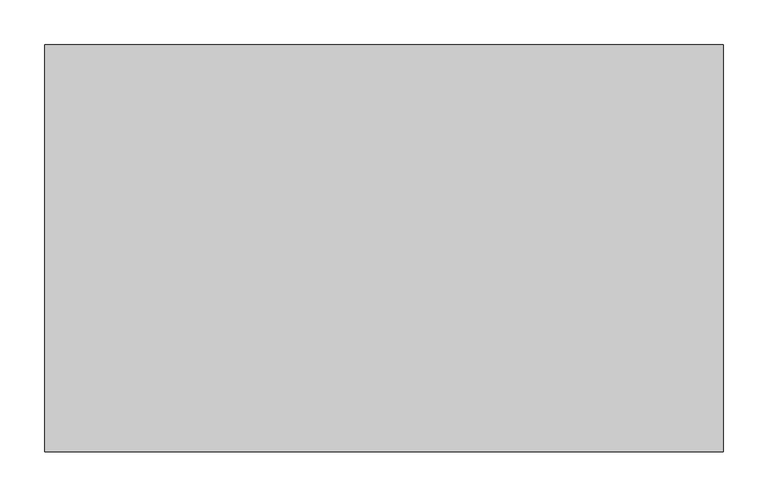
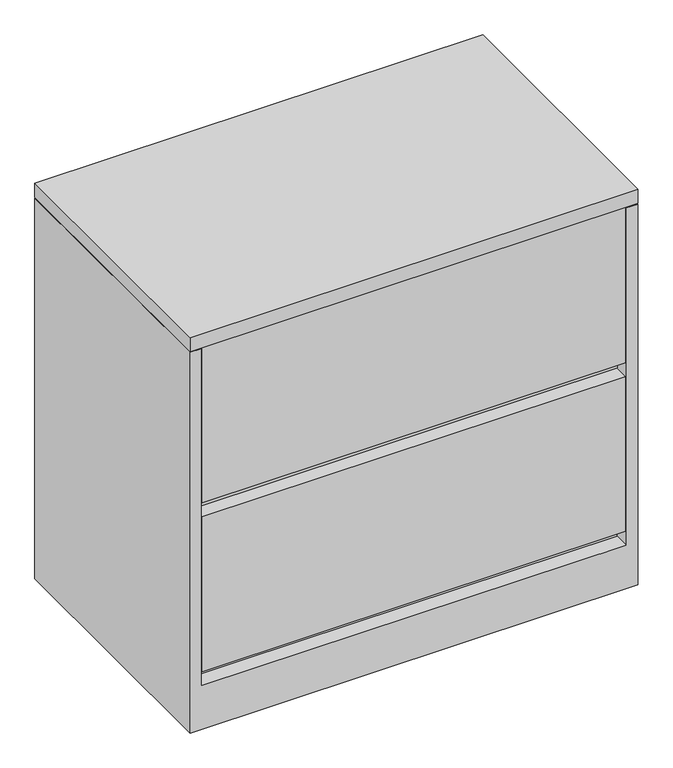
"""IFC4 building model written with IfcOpenShell, lengths in millimetres: furniture geometry, Steelcase - 900 Series - Storage - Lateral File With Roll Out Shelf - Flush Steel : 28H x 30W."""

import ifcopenshell
import ifcopenshell.guid

model = None  # the IFC model being written
_history = None  # IfcOwnerHistory: only IFC2X3 demands one
_inside = {}  # id of a spatial element -> (the spatial element, [elements in it])
_under = {}  # id of a project, library or spatial element -> (it, [spatial elements below it])
_declared = {}  # id of a project -> (the project, [libraries it declares])
_typed = {}  # id of a type object -> (the type object, [elements of that type])
_made_of = {}  # id of a material, layer set ... -> (it, [elements and type objects made of it])


def new_model(schema):
    """Start an empty IFC model of exactly this schema.

    Asked for "IFC4X3", IfcOpenShell would pick the latest addendum, in which some entities
    have other attributes; the version numbers below select the first issue.
    IFC2X3 requires an IfcOwnerHistory on every rooted entity: one is made here for all.
    """
    global model, _history
    if schema == "IFC4X3":
        model = ifcopenshell.file(schema_version=(4, 3, 0, 0))
    else:
        model = ifcopenshell.file(schema=schema)
    _inside.clear()
    _under.clear()
    _declared.clear()
    _typed.clear()
    _made_of.clear()
    _history = None
    if model.schema == "IFC2X3":
        org = make("IfcOrganization", Name="unknown")
        user = make(
            "IfcPersonAndOrganization",
            ThePerson=make("IfcPerson", FamilyName="unknown"),
            TheOrganization=org,
        )
        app = make(
            "IfcApplication",
            ApplicationDeveloper=org,
            Version="unknown",
            ApplicationFullName="unknown",
            ApplicationIdentifier="unknown",
        )
        _history = make(
            "IfcOwnerHistory",
            OwningUser=user,
            OwningApplication=app,
            ChangeAction="ADDED",
            CreationDate=0,
        )
    return model


def make(cls, **values):
    """One entity of the class cls with the attributes given. An attribute that is None is left unset."""
    return model.create_entity(
        cls, **{name: value for name, value in values.items() if value is not None}
    )


def rooted(cls, **values):
    """An entity with a GlobalId (a new one), such as an element, a storey or a relation."""
    return make(cls, GlobalId=ifcopenshell.guid.new(), OwnerHistory=_history, **values)


def si_unit(unit_type, name, prefix=None):
    """IfcSIUnit, for example si_unit("LENGTHUNIT", "METRE", prefix="MILLI")."""
    return make("IfcSIUnit", UnitType=unit_type, Prefix=prefix, Name=name)


def assignment(units):
    """IfcUnitAssignment: the units of a project."""
    return None if units is None else make("IfcUnitAssignment", Units=units)


def point(xyz):
    """IfcCartesianPoint."""
    return None if xyz is None else make("IfcCartesianPoint", Coordinates=xyz)


def direction(xyz):
    """IfcDirection."""
    return None if xyz is None else make("IfcDirection", DirectionRatios=xyz)


def frame(location, z_axis=None, x_axis=None):
    """IfcAxis2Placement3D, a coordinate frame: its origin and axes. An axis left out is left unset."""
    return make(
        "IfcAxis2Placement3D",
        Location=point(location),
        Axis=direction(z_axis),
        RefDirection=direction(x_axis),
    )


def origin():
    """The frame at (0, 0, 0) with its axes left unset."""
    return frame((0.0, 0.0, 0.0))


def place(relative_to, where):
    """IfcLocalPlacement: puts the frame where relative to a parent placement (None: the world)."""
    return make(
        "IfcLocalPlacement", PlacementRelTo=relative_to, RelativePlacement=where
    )


def context(
    kind, dimensions, precision=None, world=None, true_north=None, identifier=None
):
    """IfcGeometricRepresentationContext, for example the 3D "Model" context."""
    return make(
        "IfcGeometricRepresentationContext",
        ContextIdentifier=identifier,
        ContextType=kind,
        CoordinateSpaceDimension=dimensions,
        Precision=precision,
        WorldCoordinateSystem=world,
        TrueNorth=true_north,
    )


def project(units=None, contexts=None):
    """IfcProject with its units and contexts."""
    return rooted(
        "IfcProject",
        Name="project",
        RepresentationContexts=contexts,
        UnitsInContext=assignment(units),
    )


def spatial(cls, under=None, at=None, **own):
    """A site, building, storey or space (cls), placed at a placement, below another one or the project."""
    s = rooted(cls, ObjectPlacement=at, **own)
    if under is not None:
        _under.setdefault(under.id(), (under, []))[1].append(s)
    return s


def polyline(points):
    """IfcPolyline through the points."""
    return make("IfcPolyline", Points=[point(p) for p in points])


def outline(outer, holes=None, kind="AREA"):
    """IfcArbitraryClosedProfileDef: a profile drawn as a closed curve; with holes, ...WithVoids."""
    if holes is None:
        return make("IfcArbitraryClosedProfileDef", ProfileType=kind, OuterCurve=outer)
    return make(
        "IfcArbitraryProfileDefWithVoids",
        ProfileType=kind,
        OuterCurve=outer,
        InnerCurves=holes,
    )


def extrude(swept, where, along, depth):
    """IfcExtrudedAreaSolid: the profile swept, set in the frame where, extruded along a direction by depth."""
    return make(
        "IfcExtrudedAreaSolid",
        SweptArea=swept,
        Position=where,
        ExtrudedDirection=direction(along),
        Depth=depth,
    )


def faces_of(points, faces, orient=None, outer=None):
    """IfcFace entities. A face is a list of loops; a loop is a list of indices into points, from 0.

    orient and outer hold one flag for each loop. By default every Orientation is true, the
    first loop of a face is its IfcFaceOuterBound and the others are IfcFaceBound.
    """
    made = []
    for i, loops in enumerate(faces):
        bounds = []
        for j, loop in enumerate(loops):
            is_outer = j == 0 if outer is None else outer[i][j]
            bounds.append(
                make(
                    "IfcFaceOuterBound" if is_outer else "IfcFaceBound",
                    Bound=make("IfcPolyLoop", Polygon=[points[k] for k in loop]),
                    Orientation=True if orient is None else orient[i][j],
                )
            )
        made.append(make("IfcFace", Bounds=bounds))
    return made


def faceted_brep(points, faces, orient=None, outer=None, voids=None):
    """IfcFacetedBrep: a solid bounded by flat faces; with voids (closed shells), ...WithVoids."""
    shared = [point(p) for p in points]
    hull = make("IfcClosedShell", CfsFaces=faces_of(shared, faces, orient, outer))
    if voids is None:
        return make("IfcFacetedBrep", Outer=hull)
    return make(
        "IfcFacetedBrepWithVoids",
        Outer=hull,
        Voids=[
            make(cls, CfsFaces=faces_of(shared, fs, o, b)) for cls, fs, o, b in voids
        ],
    )


def shape(context_of_items, identifier, shape_type, items):
    """IfcShapeRepresentation: the items that make up one representation, for example the "Body"."""
    return make(
        "IfcShapeRepresentation",
        ContextOfItems=context_of_items,
        RepresentationIdentifier=identifier,
        RepresentationType=shape_type,
        Items=items,
    )


def source(mapping_origin, context_of_items, identifier, shape_type, items):
    """IfcRepresentationMap: a shape defined once, which mapped items show again and again."""
    return make(
        "IfcRepresentationMap",
        MappingOrigin=mapping_origin,
        MappedRepresentation=shape(context_of_items, identifier, shape_type, items),
    )


def transform(
    local_origin,
    x_axis=None,
    y_axis=None,
    z_axis=None,
    scale=None,
    scale2=None,
    scale3=None,
    uniform=True,
):
    """IfcCartesianTransformationOperator3D, or its non-uniform kind. x_axis, y_axis, z_axis: its Axis1, 2, 3."""
    if uniform:
        return make(
            "IfcCartesianTransformationOperator3D",
            Axis1=direction(x_axis),
            Axis2=direction(y_axis),
            LocalOrigin=point(local_origin),
            Scale=scale,
            Axis3=direction(z_axis),
        )
    return make(
        "IfcCartesianTransformationOperator3DnonUniform",
        Axis1=direction(x_axis),
        Axis2=direction(y_axis),
        LocalOrigin=point(local_origin),
        Scale=scale,
        Axis3=direction(z_axis),
        Scale2=scale2,
        Scale3=scale3,
    )


def mapped(mapping_source, mapping_target):
    """IfcMappedItem: shows the shape of a source again, moved by a transform."""
    return make(
        "IfcMappedItem", MappingSource=mapping_source, MappingTarget=mapping_target
    )


def made_of(thing, what):
    """Note that an element or type object is made of a material, layer set ...; save() writes the relation."""
    if what is not None:
        _made_of.setdefault(what.id(), (what, []))[1].append(thing)
    return thing


def element(
    cls,
    number,
    at=None,
    inside=None,
    cuts=None,
    type_object=None,
    material=None,
    context=None,
    identifier="Body",
    shape_type=None,
    held_by="IfcProductDefinitionShape",
    body=None,
    shapes=None,
    **own,
):
    """One element of the class cls, such as IfcWall. Its Tag is "e" and its number.

    at: its placement. inside: the storey or other place that contains it. cuts: it is an
    opening in that element (IfcRelVoidsElement). A single representation is given by context,
    identifier, shape_type and body (its items); several are given by shapes. held_by: the class
    of the entity that holds the representations. save() writes the other relations.
    """
    e = rooted(cls, Tag="e%d" % number, ObjectPlacement=at, **own)
    if body is not None:
        shapes = [shape(context, identifier, shape_type, body)]
    if shapes is not None:
        e.Representation = make(held_by, Representations=shapes)
    if inside is not None:
        _inside.setdefault(inside.id(), (inside, []))[1].append(e)
    if cuts is not None:
        rooted(
            "IfcRelVoidsElement", RelatingBuildingElement=cuts, RelatedOpeningElement=e
        )
    if type_object is not None:
        _typed.setdefault(type_object.id(), (type_object, []))[1].append(e)
    return made_of(e, material)


def aggregate(whole, parts):
    """IfcRelAggregates: a whole, such as a stair, and the parts it consists of."""
    return rooted("IfcRelAggregates", RelatingObject=whole, RelatedObjects=parts)


def save(model, path):
    """Write the relations noted so far, then the file.

    IfcRelAggregates (storeys below a building ...), IfcRelContainedInSpatialStructure (elements
    in a storey), IfcRelDefinesByType, IfcRelAssociatesMaterial and IfcRelDeclares: one each for
    every whole, place, type object, material and project.
    """
    for whole, parts in _under.values():
        aggregate(whole, parts)
    for where, things in _inside.values():
        rooted(
            "IfcRelContainedInSpatialStructure",
            RelatedElements=things,
            RelatingStructure=where,
        )
    for kind, things in _typed.values():
        rooted("IfcRelDefinesByType", RelatedObjects=things, RelatingType=kind)
    for what, things in _made_of.values():
        rooted("IfcRelAssociatesMaterial", RelatedObjects=things, RelatingMaterial=what)
    for by, libraries in _declared.values():
        rooted("IfcRelDeclares", RelatingContext=by, RelatedDefinitions=libraries)
    model.write(path)


def furniture_a02d29f8(model_context):
    return source(origin(), model_context, "Body", "SolidModel", [
        faceted_brep([(742.6960184, -25.2721219, 684.276), (742.6960184, -457.2, 684.276), (762.0, -457.2, 684.276), (762.0, 0.0, 684.276), (0.0, 0.0, 684.276), (0.0, -457.2, 684.276), (19.3039998, -457.2, 684.276), (19.3039998, -25.2721219, 684.276), (0.0, -457.2, 0.0), (0.0, 0.0, 0.0), (762.0, 0.0, 0.0), (762.0, -457.2, 0.0), (742.6960184, -25.2721219, 406.7048), (742.6960184, -431.800255, 406.7048), (742.6960184, -431.800255, 381.254), (742.6960184, -25.2721219, 381.254), (742.6960184, -25.2721219, 103.3780013), (742.6960184, -430.275847, 103.3780013), (742.6960184, -430.275847, 77.9779983), (742.6960184, -457.2, 77.9779983), (19.3039998, -457.2, 77.9779983), (19.3039998, -430.275847, 77.9779983), (19.3039998, -430.275847, 103.3780013), (19.3039998, -25.2721219, 103.3780013), (19.3039998, -25.2721219, 381.254), (19.3039998, -431.800255, 381.254), (19.3039998, -431.800255, 406.7048), (19.3039998, -25.2721219, 406.7048)], [[[0, 1, 2, 3, 4, 5, 6, 7]], [[8, 9, 10, 11]], [[1, 0, 12, 13, 14, 15, 16, 17, 18, 19]], [[2, 1, 19, 20, 6, 5, 8, 11]], [[3, 2, 11, 10]], [[4, 3, 10, 9]], [[5, 4, 9, 8]], [[7, 6, 20, 21, 22, 23, 24, 25, 26, 27]], [[0, 7, 27, 12]], [[16, 15, 24, 23]], [[18, 21, 20, 19]], [[22, 17, 16, 23]], [[21, 18, 17, 22]], [[26, 13, 12, 27]], [[13, 26, 25, 14]], [[14, 25, 24, 15]]]),
        faceted_brep([(762.0, 0.0, 711.2), (0.0, 0.0, 711.2), (0.0, -457.2, 711.2), (762.0, -457.2, 711.2), (762.0, 0.0, 685.7999516), (762.0, -457.2, 685.7999516), (0.0, -457.2, 685.7999516), (0.0, 0.0, 685.7999516), (742.6960184, -25.2721219, 685.7999516), (20.8289612, -25.2721219, 685.7999516), (20.8289612, -415.9241219, 685.7999516), (742.6960184, -415.9241219, 685.7999516), (742.6960184, -25.2721219, 684.276), (742.6960184, -415.9241219, 684.276), (20.8289612, -415.9241219, 684.276), (20.8289612, -25.2721219, 684.276)], [[[0, 1, 2, 3]], [[4, 5, 6, 7], [8, 9, 10, 11]], [[1, 0, 4, 7]], [[2, 1, 7, 6]], [[3, 2, 6, 5]], [[0, 3, 5, 4]], [[12, 13, 14, 15]], [[12, 15, 9, 8]], [[15, 14, 10, 9]], [[14, 13, 11, 10]], [[13, 12, 8, 11]]]),
        extrude(outline(polyline([(741.1722015, -457.2), (20.8289612, -457.2), (20.8289612, -431.800255), (741.1722015, -431.800255), (741.1722015, -457.2)])), frame((0.0, 0.0, 103.3780013), z_axis=(0.0, 0.0, 1.0), x_axis=(1.0, 0.0, 0.0)), (0.0, 0.0, 1.0), 277.8759987),
        extrude(outline(polyline([(741.1722015, -457.2), (20.8289612, -457.2), (20.8289612, -431.800255), (741.1722015, -431.800255), (741.1722015, -457.2)])), frame((0.0, 0.0, 406.7048), z_axis=(0.0, 0.0, 1.0), x_axis=(1.0, 0.0, 0.0)), (0.0, 0.0, 1.0), 279.4),
    ])


if __name__ == "__main__":
    model = new_model("IFC4")
    model_context = context("Model", 3, world=origin())
    ifc_project = project(units=[si_unit("LENGTHUNIT", "METRE", prefix="MILLI")], contexts=[model_context])
    site = spatial("IfcSite", under=ifc_project)
    building = spatial("IfcBuilding", under=site)
    placement = place(None, origin())
    furniture_shape = furniture_a02d29f8(model_context)
    element("IfcFurniture", 1, ObjectType="Steelcase - 900 Series - Storage - Lateral File With Roll Out Shelf - Flush Steel : 28H x 30W", at=placement, inside=building, context=model_context, shape_type="MappedRepresentation", body=[
        mapped(furniture_shape, transform((0.0, 0.0, 0.0), x_axis=(1.0, 0.0, 0.0), y_axis=(0.0, 1.0, 0.0), z_axis=(0.0, 0.0, 1.0))),
    ])
    save(model, "model.ifc")
